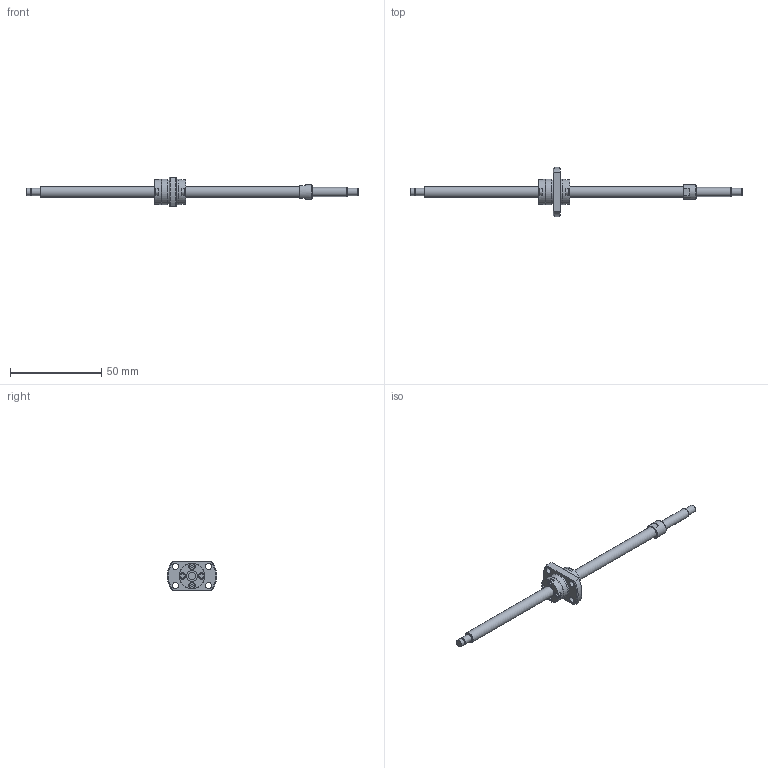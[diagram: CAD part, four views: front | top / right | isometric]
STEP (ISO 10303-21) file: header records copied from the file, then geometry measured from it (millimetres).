
FILE_DESCRIPTION(/* description */ ('STEP AP214'),/* implementation_level */ '2;1');
FILE_NAME(/* name */ 'SRT0606-138R182C7B0X(62.5Processing)',/* time_stamp */ '2026-08-04T17:56:15+02:00',/* author */ ('License CC BY-ND 4.0'),/* organization */ ('CADENAS'),/* preprocessor_version */ 'ST-DEVELOPER v20',/* originating_system */ 'PARTsolutions',/* authorisation */ ' ');
FILE_SCHEMA (('AUTOMOTIVE_DESIGN {1 0 10303 214 3 1 1}'));
Length unit declared in the file: millimetre
Products named in the file (3): SRT0606-138R182C7B0X(62.5Processing); SRT0606-138R220BCt7Processing21Shaft; SRT0606Nut
Assembly tree (2 placements, depth 2):
  SRT0606-138R182C7B0X(62.5Processing)
    SRT0606-138R220BCt7Processing21Shaft
    SRT0606Nut
Bounding box: 182 x 27 x 16 mm (x, y, z)
Volume: 7758 mm3; surface area: 5704.8 mm2
Topology: 2 solids, 2 shells, 154 faces, 365 edges, 242 vertices
Faces by surface type: plane 109, cylinder 35, cone 9, torus 1
Full cylindrical faces by diameter (mm): 3 x8, 3.4 x4, 3.7 x1, 4 x3, 5 x1, 6 x2, 8 x1, 13.6 x1, 13.8 x2, 14 x2
Entity records: 4337 total; most frequent: CARTESIAN_POINT 747, DIRECTION 732, ORIENTED_EDGE 658, EDGE_CURVE 329, AXIS2_PLACEMENT_3D 254, VERTEX_POINT 237, LINE 224, VECTOR 224
